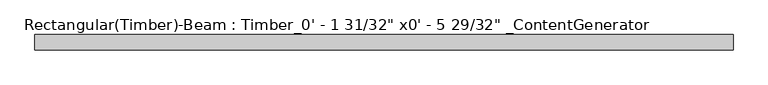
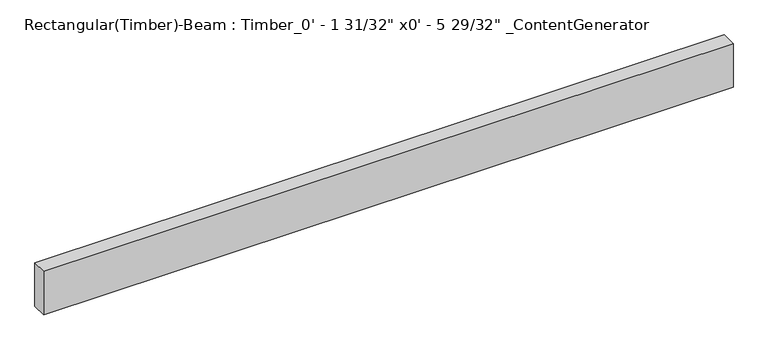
"""IFC4 building model written with IfcOpenShell, lengths in millimetres: beam geometry."""

from ifc_helpers import new_model, si_unit, frame, origin, place, context, project, spatial, polyline, outline, extrude, source, transform, mapped, element, save


def beam_a279e93a(model_context):
    return source(origin(), model_context, "Body", "SweptSolid", [
        extrude(outline(polyline([(1143.0, 25.4), (1143.0, -25.4), (-1142.9999994, -25.4), (-1142.9999994, 25.4), (1143.0, 25.4)])), frame((0.0, 0.0, -76.2), z_axis=(0.0, 0.0, 1.0), x_axis=(1.0, 0.0, 0.0)), (0.0, 0.0, 1.0), 152.4),
    ])


if __name__ == "__main__":
    model = new_model("IFC4")
    model_context = context("Model", 3, world=origin())
    ifc_project = project(units=[si_unit("LENGTHUNIT", "METRE", prefix="MILLI")], contexts=[model_context])
    site = spatial("IfcSite", under=ifc_project)
    building = spatial("IfcBuilding", under=site)
    placement = place(None, origin())
    beam_shape = beam_a279e93a(model_context)
    element("IfcBeam", 1, ObjectType="Rectangular(Timber)-Beam : Timber_0' - 1 31/32\" x0' - 5 29/32\" _ContentGenerator", at=placement, inside=building, context=model_context, shape_type="MappedRepresentation", body=[
        mapped(beam_shape, transform((0.0, 0.0, 0.0), x_axis=(1.0, 0.0, 0.0), y_axis=(0.0, 1.0, 0.0), z_axis=(0.0, 0.0, 1.0))),
    ])
    save(model, "model.ifc")
